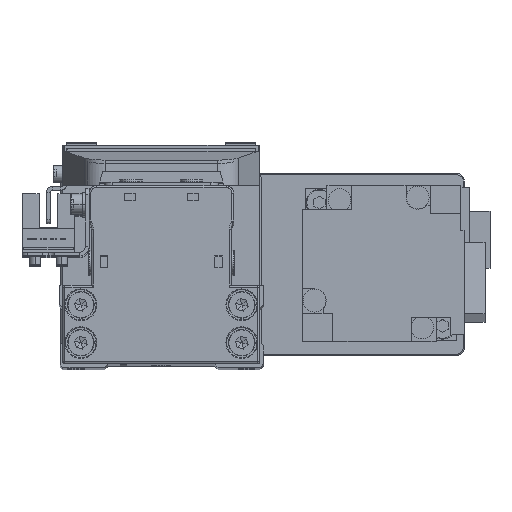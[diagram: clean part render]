
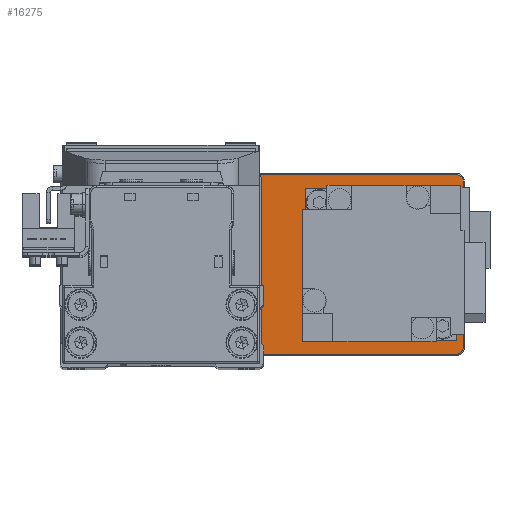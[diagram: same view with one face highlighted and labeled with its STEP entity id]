
A CAD part, top view. The second image highlights one B-rep face of the part: STEP entity #16275.
In plain terms, the highlighted planar face has unit normal (0, 0, 1).
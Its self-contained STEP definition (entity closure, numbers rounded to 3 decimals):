
#92 = DIRECTION ( 'NONE',  ( 0., 0., 1. ) ) ;
#489 = CARTESIAN_POINT ( 'NONE',  ( -38.3, 0., 5. ) ) ;
#784 = CARTESIAN_POINT ( 'NONE',  ( 50., -23.7, 5. ) ) ;
#1322 = AXIS2_PLACEMENT_3D ( 'NONE', #23382, #35708, #8065 ) ;
#1598 = LINE ( 'NONE', #13882, #20763 ) ;
#2693 = VERTEX_POINT ( 'NONE', #19571 ) ;
#3003 = DIRECTION ( 'NONE',  ( 1., 0., 0. ) ) ;
#3562 = DIRECTION ( 'NONE',  ( 1., 0., 0. ) ) ;
#4460 = CARTESIAN_POINT ( 'NONE',  ( 0., 0., 5. ) ) ;
#4476 = AXIS2_PLACEMENT_3D ( 'NONE', #23401, #35725, #8078 ) ;
#4519 = VERTEX_POINT ( 'NONE', #5389 ) ;
#4808 = VERTEX_POINT ( 'NONE', #19472 ) ;
#5247 = EDGE_CURVE ( 'NONE', #16567, #4808, #5405, .T. ) ;
#5389 = CARTESIAN_POINT ( 'NONE',  ( -17.7, 0., 5. ) ) ;
#5405 = CIRCLE ( 'NONE', #27947, 1.7 ) ;
#6526 = ORIENTED_EDGE ( 'NONE', *, *, #12742, .T. ) ;
#6595 = EDGE_CURVE ( 'NONE', #14159, #2693, #32442, .T. ) ;
#7502 = FACE_BOUND ( 'NONE', #22784, .T. ) ;
#7534 = DIRECTION ( 'NONE',  ( 1., 0., 0. ) ) ;
#8000 = CIRCLE ( 'NONE', #30532, 12.8 ) ;
#8065 = DIRECTION ( 'NONE',  ( 1., 0., 0. ) ) ;
#8078 = DIRECTION ( 'NONE',  ( 1., 0., 0. ) ) ;
#8780 = EDGE_CURVE ( 'NONE', #4808, #14159, #28391, .T. ) ;
#8828 = DIRECTION ( 'NONE',  ( 1., 0., 0. ) ) ;
#9093 = AXIS2_PLACEMENT_3D ( 'NONE', #24162, #36479, #8828 ) ;
#9899 = CARTESIAN_POINT ( 'NONE',  ( -50., 23.7, 5. ) ) ;
#10156 = ORIENTED_EDGE ( 'NONE', *, *, #32323, .T. ) ;
#10299 = VERTEX_POINT ( 'NONE', #489 ) ;
#11423 = CARTESIAN_POINT ( 'NONE',  ( -51.7, -22., 5. ) ) ;
#12388 = DIRECTION ( 'NONE',  ( 1., 0., 0. ) ) ;
#12742 = EDGE_CURVE ( 'NONE', #10299, #4519, #26466, .T. ) ;
#12874 = CARTESIAN_POINT ( 'NONE',  ( 50., 23.7, 5. ) ) ;
#13079 = DIRECTION ( 'NONE',  ( 1., 0., 0. ) ) ;
#13882 = CARTESIAN_POINT ( 'NONE',  ( 51.7, 22., 5. ) ) ;
#13931 = CARTESIAN_POINT ( 'NONE',  ( -28., 0., 5. ) ) ;
#14159 = VERTEX_POINT ( 'NONE', #29540 ) ;
#14475 = CARTESIAN_POINT ( 'NONE',  ( -50., 23.7, 5. ) ) ;
#14705 = CIRCLE ( 'NONE', #19851, 12.8 ) ;
#16275 = ADVANCED_FACE ( 'NONE', ( #35140, #7502, #19790 ), #32094, .T. ) ;
#16567 = VERTEX_POINT ( 'NONE', #27828 ) ;
#16764 = DIRECTION ( 'NONE',  ( 0., 0., 1. ) ) ;
#16913 = ORIENTED_EDGE ( 'NONE', *, *, #23191, .T. ) ;
#18324 = CARTESIAN_POINT ( 'NONE',  ( 30., 0., 5. ) ) ;
#18638 = EDGE_CURVE ( 'NONE', #26101, #34443, #37537, .T. ) ;
#18734 = AXIS2_PLACEMENT_3D ( 'NONE', #13931, #26225, #38553 ) ;
#18886 = CARTESIAN_POINT ( 'NONE',  ( 30., 0., 5. ) ) ;
#18887 = VERTEX_POINT ( 'NONE', #29824 ) ;
#19472 = CARTESIAN_POINT ( 'NONE',  ( -50., -23.7, 5. ) ) ;
#19571 = CARTESIAN_POINT ( 'NONE',  ( 51.7, -22., 5. ) ) ;
#19790 = FACE_OUTER_BOUND ( 'NONE', #34998, .T. ) ;
#19851 = AXIS2_PLACEMENT_3D ( 'NONE', #18324, #30612, #3003 ) ;
#20138 = CARTESIAN_POINT ( 'NONE',  ( 42.8, 0., 5. ) ) ;
#20763 = VECTOR ( 'NONE', #26174, 1000. ) ;
#20774 = EDGE_CURVE ( 'NONE', #30949, #25971, #8000, .T. ) ;
#21867 = CIRCLE ( 'NONE', #4476, 1.7 ) ;
#22205 = DIRECTION ( 'NONE',  ( -1., 0., 0. ) ) ;
#22784 = EDGE_LOOP ( 'NONE', ( #37415, #6526 ) ) ;
#22862 = CARTESIAN_POINT ( 'NONE',  ( -50., -22., 5. ) ) ;
#23191 = EDGE_CURVE ( 'NONE', #23413, #26101, #21867, .T. ) ;
#23382 = CARTESIAN_POINT ( 'NONE',  ( -50., 22., 5. ) ) ;
#23401 = CARTESIAN_POINT ( 'NONE',  ( 50., 22., 5. ) ) ;
#23413 = VERTEX_POINT ( 'NONE', #31031 ) ;
#23702 = DIRECTION ( 'NONE',  ( 0., -1., 0. ) ) ;
#24027 = CARTESIAN_POINT ( 'NONE',  ( 17.2, 0., 5. ) ) ;
#24162 = CARTESIAN_POINT ( 'NONE',  ( -28., 0., 5. ) ) ;
#24386 = EDGE_CURVE ( 'NONE', #4519, #10299, #36132, .T. ) ;
#24494 = ORIENTED_EDGE ( 'NONE', *, *, #20774, .T. ) ;
#25971 = VERTEX_POINT ( 'NONE', #20138 ) ;
#26101 = VERTEX_POINT ( 'NONE', #12874 ) ;
#26121 = VECTOR ( 'NONE', #13079, 1000. ) ;
#26160 = EDGE_CURVE ( 'NONE', #2693, #23413, #1598, .T. ) ;
#26174 = DIRECTION ( 'NONE',  ( 0., 1., 0. ) ) ;
#26225 = DIRECTION ( 'NONE',  ( 0., 0., -1. ) ) ;
#26466 = CIRCLE ( 'NONE', #9093, 10.3 ) ;
#26471 = AXIS2_PLACEMENT_3D ( 'NONE', #4460, #16764, #29064 ) ;
#27692 = CARTESIAN_POINT ( 'NONE',  ( 50., -22., 5. ) ) ;
#27828 = CARTESIAN_POINT ( 'NONE',  ( -51.7, -22., 5. ) ) ;
#27947 = AXIS2_PLACEMENT_3D ( 'NONE', #22862, #35172, #7534 ) ;
#28391 = LINE ( 'NONE', #784, #26121 ) ;
#29064 = DIRECTION ( 'NONE',  ( 1., 0., 0. ) ) ;
#29194 = EDGE_CURVE ( 'NONE', #18887, #16567, #39076, .T. ) ;
#29540 = CARTESIAN_POINT ( 'NONE',  ( 50., -23.7, 5. ) ) ;
#29824 = CARTESIAN_POINT ( 'NONE',  ( -51.7, 22., 5. ) ) ;
#30200 = EDGE_CURVE ( 'NONE', #25971, #30949, #14705, .T. ) ;
#30315 = EDGE_LOOP ( 'NONE', ( #33812, #24494 ) ) ;
#30532 = AXIS2_PLACEMENT_3D ( 'NONE', #18886, #31179, #3562 ) ;
#30612 = DIRECTION ( 'NONE',  ( 0., 0., -1. ) ) ;
#30949 = VERTEX_POINT ( 'NONE', #24027 ) ;
#31031 = CARTESIAN_POINT ( 'NONE',  ( 51.7, 22., 5. ) ) ;
#31179 = DIRECTION ( 'NONE',  ( 0., 0., -1. ) ) ;
#31365 = ORIENTED_EDGE ( 'NONE', *, *, #5247, .T. ) ;
#32094 = PLANE ( 'NONE',  #26471 ) ;
#32126 = VECTOR ( 'NONE', #23702, 1000. ) ;
#32323 = EDGE_CURVE ( 'NONE', #34443, #18887, #36105, .T. ) ;
#32442 = CIRCLE ( 'NONE', #37607, 1.7 ) ;
#32809 = ORIENTED_EDGE ( 'NONE', *, *, #6595, .T. ) ;
#33603 = ORIENTED_EDGE ( 'NONE', *, *, #26160, .T. ) ;
#33626 = VECTOR ( 'NONE', #22205, 1000. ) ;
#33812 = ORIENTED_EDGE ( 'NONE', *, *, #30200, .T. ) ;
#34443 = VERTEX_POINT ( 'NONE', #14475 ) ;
#34998 = EDGE_LOOP ( 'NONE', ( #39372, #32809, #33603, #16913, #36393, #10156, #36893, #31365 ) ) ;
#35140 = FACE_BOUND ( 'NONE', #30315, .T. ) ;
#35172 = DIRECTION ( 'NONE',  ( 0., 0., 1. ) ) ;
#35708 = DIRECTION ( 'NONE',  ( 0., 0., 1. ) ) ;
#35725 = DIRECTION ( 'NONE',  ( 0., 0., 1. ) ) ;
#36105 = CIRCLE ( 'NONE', #1322, 1.7 ) ;
#36132 = CIRCLE ( 'NONE', #18734, 10.3 ) ;
#36393 = ORIENTED_EDGE ( 'NONE', *, *, #18638, .T. ) ;
#36479 = DIRECTION ( 'NONE',  ( 0., 0., -1. ) ) ;
#36893 = ORIENTED_EDGE ( 'NONE', *, *, #29194, .T. ) ;
#37415 = ORIENTED_EDGE ( 'NONE', *, *, #24386, .T. ) ;
#37537 = LINE ( 'NONE', #9899, #33626 ) ;
#37607 = AXIS2_PLACEMENT_3D ( 'NONE', #27692, #92, #12388 ) ;
#38553 = DIRECTION ( 'NONE',  ( 1., 0., 0. ) ) ;
#39076 = LINE ( 'NONE', #11423, #32126 ) ;
#39372 = ORIENTED_EDGE ( 'NONE', *, *, #8780, .T. ) ;
